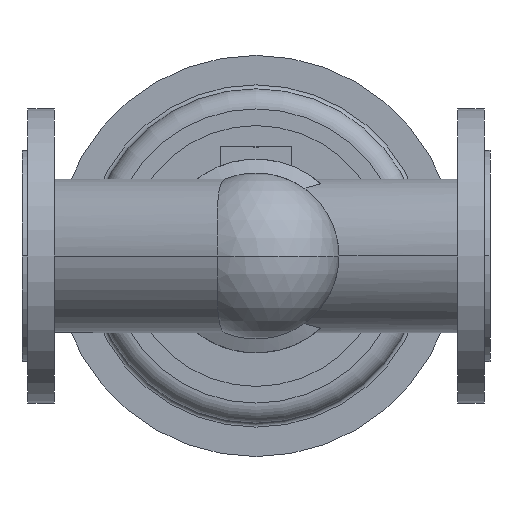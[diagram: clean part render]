
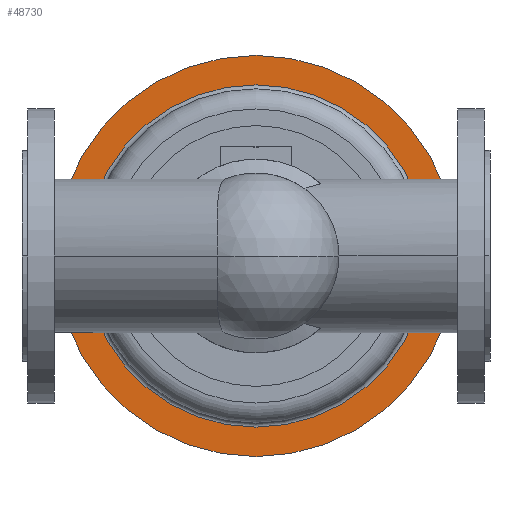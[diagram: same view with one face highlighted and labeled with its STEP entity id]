
A CAD part, front view. The second image highlights one B-rep face of the part: STEP entity #48730.
In plain terms, the highlighted planar face has unit normal (0, -1, 0).
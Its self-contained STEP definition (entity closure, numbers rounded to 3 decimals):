
#33880=CARTESIAN_POINT('',(25.,477.8,0.));
#33890=VERTEX_POINT('',#33880);
#34050=CARTESIAN_POINT('',(325.,477.8,0.));
#34060=VERTEX_POINT('',#34050);
#34090=CARTESIAN_POINT('',(175.,477.8,0.));
#34100=DIRECTION('',(0.,1.,0.));
#34110=DIRECTION('',(1.,0.,0.));
#34120=AXIS2_PLACEMENT_3D('',#34090,#34100,#34110);
#34130=CIRCLE('',#34120,150.);
#34140=EDGE_CURVE('',#33890,#34060,#34130,.T.);
#34310=CARTESIAN_POINT('',(303.,477.8,0.));
#34320=VERTEX_POINT('',#34310);
#34350=CARTESIAN_POINT('',(175.,477.8,0.));
#34360=DIRECTION('',(0.,1.,0.));
#34370=DIRECTION('',(1.,0.,0.));
#34380=AXIS2_PLACEMENT_3D('',#34350,#34360,#34370);
#34390=CIRCLE('',#34380,128.);
#34400=CARTESIAN_POINT('',(47.,477.8,0.));
#34410=VERTEX_POINT('',#34400);
#34420=EDGE_CURVE('',#34320,#34410,#34390,.T.);
#48540=CARTESIAN_POINT('',(314.,477.8,0.));
#48550=DIRECTION('',(0.,-1.,0.));
#48560=DIRECTION('',(-1.,0.,0.));
#48570=AXIS2_PLACEMENT_3D('',#48540,#48550,#48560);
#48580=PLANE('',#48570);
#48590=EDGE_CURVE('',#34060,#33890,#34130,.T.);
#48600=ORIENTED_EDGE('',*,*,#48590,.F.);
#48610=ORIENTED_EDGE('',*,*,#34140,.F.);
#48620=EDGE_LOOP('',(#48610,#48600));
#48630=FACE_OUTER_BOUND('',#48620,.T.);
#48640=ORIENTED_EDGE('',*,*,#34420,.T.);
#48650=CARTESIAN_POINT('',(175.,477.8,128.));
#48660=VERTEX_POINT('',#48650);
#48670=EDGE_CURVE('',#48660,#34320,#34390,.T.);
#48680=ORIENTED_EDGE('',*,*,#48670,.T.);
#48690=EDGE_CURVE('',#34410,#48660,#34390,.T.);
#48700=ORIENTED_EDGE('',*,*,#48690,.T.);
#48710=EDGE_LOOP('',(#48700,#48680,#48640));
#48720=FACE_BOUND('',#48710,.T.);
#48730=ADVANCED_FACE('',(#48630,#48720),#48580,.T.);
